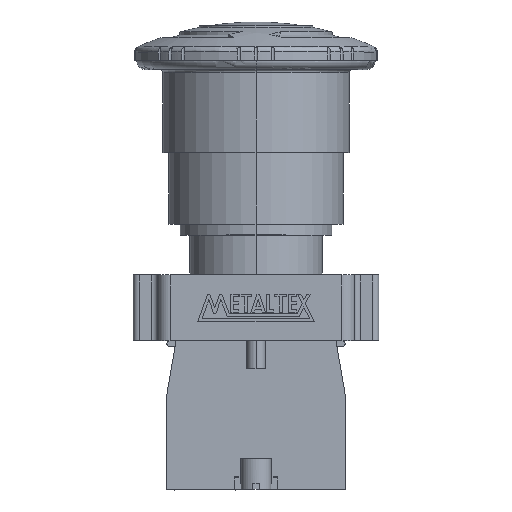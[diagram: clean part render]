
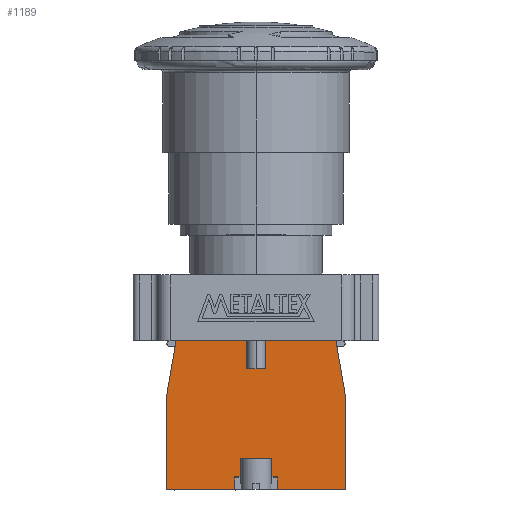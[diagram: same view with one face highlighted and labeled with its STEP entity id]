
A CAD part, top view. The second image highlights one B-rep face of the part: STEP entity #1189.
In plain terms, the highlighted planar face has unit normal (0, 0, 1).
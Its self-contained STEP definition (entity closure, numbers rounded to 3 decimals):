
#1189 = ADVANCED_FACE ( 'NONE', ( #2750 ), #10880, .T. ) ;
#1325 = EDGE_CURVE ( 'NONE', #5442, #5418, #11363, .T. ) ;
#1326 = EDGE_CURVE ( 'NONE', #7913, #4886, #11366, .T. ) ;
#1327 = EDGE_CURVE ( 'NONE', #7870, #4886, #11369, .T. ) ;
#1328 = EDGE_CURVE ( 'NONE', #7870, #5438, #11372, .T. ) ;
#1329 = EDGE_CURVE ( 'NONE', #4948, #5439, #11375, .T. ) ;
#1330 = EDGE_CURVE ( 'NONE', #4947, #4948, #11378, .T. ) ;
#1331 = EDGE_CURVE ( 'NONE', #7912, #4947, #11381, .T. ) ;
#1332 = EDGE_CURVE ( 'NONE', #5444, #5416, #11384, .T. ) ;
#1333 = EDGE_CURVE ( 'NONE', #5415, #4842, #11387, .T. ) ;
#1337 = EDGE_CURVE ( 'NONE', #7916, #5412, #11399, .T. ) ;
#1375 = EDGE_CURVE ( 'NONE', #7897, #7912, #11513, .T. ) ;
#1378 = EDGE_CURVE ( 'NONE', #7913, #7916, #11522, .T. ) ;
#1443 = EDGE_CURVE ( 'NONE', #4842, #7897, #11937, .T. ) ;
#1450 = EDGE_CURVE ( 'NONE', #5442, #5444, #11958, .T. ) ;
#1456 = EDGE_CURVE ( 'NONE', #5438, #5439, #11976, .T. ) ;
#1490 = EDGE_CURVE ( 'NONE', #5411, #5418, #12078, .T. ) ;
#1494 = EDGE_CURVE ( 'NONE', #5416, #5415, #12090, .T. ) ;
#1501 = EDGE_CURVE ( 'NONE', #5412, #5411, #12111, .T. ) ;
#2058 = VECTOR ( 'NONE', #11368, 1000. ) ;
#2059 = VECTOR ( 'NONE', #11365, 1000. ) ;
#2062 = VECTOR ( 'NONE', #11374, 1000. ) ;
#2063 = VECTOR ( 'NONE', #11371, 1000. ) ;
#2064 = VECTOR ( 'NONE', #11377, 1000. ) ;
#2065 = VECTOR ( 'NONE', #11380, 1000. ) ;
#2066 = VECTOR ( 'NONE', #11386, 1000. ) ;
#2067 = VECTOR ( 'NONE', #11383, 1000. ) ;
#2068 = VECTOR ( 'NONE', #11389, 1000. ) ;
#2070 = VECTOR ( 'NONE', #11401, 1000. ) ;
#2111 = VECTOR ( 'NONE', #11515, 1000. ) ;
#2114 = VECTOR ( 'NONE', #11524, 1000. ) ;
#2166 = VECTOR ( 'NONE', #11939, 1000. ) ;
#2173 = VECTOR ( 'NONE', #11960, 1000. ) ;
#2179 = VECTOR ( 'NONE', #11978, 1000. ) ;
#2220 = VECTOR ( 'NONE', #12080, 1000. ) ;
#2750 = FACE_OUTER_BOUND ( 'NONE', #8194, .T. ) ;
#2755 = AXIS2_PLACEMENT_3D ( 'NONE', #10881, #10882, #10883 ) ;
#2787 = VECTOR ( 'NONE', #12092, 1000. ) ;
#3163 = VECTOR ( 'NONE', #12113, 1000. ) ;
#3479 = ORIENTED_EDGE ( 'NONE', *, *, #1333, .T. ) ;
#3480 = ORIENTED_EDGE ( 'NONE', *, *, #1332, .T. ) ;
#3481 = ORIENTED_EDGE ( 'NONE', *, *, #1443, .T. ) ;
#3482 = ORIENTED_EDGE ( 'NONE', *, *, #1494, .T. ) ;
#3483 = ORIENTED_EDGE ( 'NONE', *, *, #1375, .T. ) ;
#3484 = ORIENTED_EDGE ( 'NONE', *, *, #1331, .T. ) ;
#3485 = ORIENTED_EDGE ( 'NONE', *, *, #1329, .T. ) ;
#3486 = ORIENTED_EDGE ( 'NONE', *, *, #1330, .T. ) ;
#3487 = ORIENTED_EDGE ( 'NONE', *, *, #1456, .F. ) ;
#3488 = ORIENTED_EDGE ( 'NONE', *, *, #1328, .F. ) ;
#3489 = ORIENTED_EDGE ( 'NONE', *, *, #1326, .F. ) ;
#3490 = ORIENTED_EDGE ( 'NONE', *, *, #1327, .T. ) ;
#3491 = ORIENTED_EDGE ( 'NONE', *, *, #1378, .T. ) ;
#3492 = ORIENTED_EDGE ( 'NONE', *, *, #1501, .T. ) ;
#3493 = ORIENTED_EDGE ( 'NONE', *, *, #1337, .T. ) ;
#3494 = ORIENTED_EDGE ( 'NONE', *, *, #1490, .T. ) ;
#3495 = ORIENTED_EDGE ( 'NONE', *, *, #1325, .F. ) ;
#3497 = ORIENTED_EDGE ( 'NONE', *, *, #1450, .T. ) ;
#4842 = VERTEX_POINT ( 'NONE', #14947 ) ;
#4886 = VERTEX_POINT ( 'NONE', #14991 ) ;
#4947 = VERTEX_POINT ( 'NONE', #15052 ) ;
#4948 = VERTEX_POINT ( 'NONE', #15053 ) ;
#5411 = VERTEX_POINT ( 'NONE', #15429 ) ;
#5412 = VERTEX_POINT ( 'NONE', #15430 ) ;
#5415 = VERTEX_POINT ( 'NONE', #15433 ) ;
#5416 = VERTEX_POINT ( 'NONE', #15434 ) ;
#5418 = VERTEX_POINT ( 'NONE', #15436 ) ;
#5438 = VERTEX_POINT ( 'NONE', #15456 ) ;
#5439 = VERTEX_POINT ( 'NONE', #15457 ) ;
#5442 = VERTEX_POINT ( 'NONE', #15460 ) ;
#5444 = VERTEX_POINT ( 'NONE', #15462 ) ;
#7870 = VERTEX_POINT ( 'NONE', #15539 ) ;
#7897 = VERTEX_POINT ( 'NONE', #15566 ) ;
#7912 = VERTEX_POINT ( 'NONE', #15581 ) ;
#7913 = VERTEX_POINT ( 'NONE', #15582 ) ;
#7916 = VERTEX_POINT ( 'NONE', #15585 ) ;
#8194 = EDGE_LOOP ( 'NONE', ( #3480, #3482, #3479, #3481, #3483, #3484, #3486, #3485, #3487, #3488, #3490, #3489, #3491, #3493, #3492, #3494, #3495, #3497 ) ) ;
#10880 = PLANE ( 'NONE',  #2755 ) ;
#10881 = CARTESIAN_POINT ( 'NONE',  ( 0., 0., 7.45 ) ) ;
#10882 = DIRECTION ( 'NONE',  ( 0., 0., 1. ) ) ;
#10883 = DIRECTION ( 'NONE',  ( 1., 0., 0. ) ) ;
#11363 = LINE ( 'NONE', #11364, #2059 ) ;
#11364 = CARTESIAN_POINT ( 'NONE',  ( 1.5, 19.6, 7.45 ) ) ;
#11365 = DIRECTION ( 'NONE',  ( 0., 1., 0. ) ) ;
#11366 = LINE ( 'NONE', #11367, #2058 ) ;
#11367 = CARTESIAN_POINT ( 'NONE',  ( 3.5, 0., 7.45 ) ) ;
#11368 = DIRECTION ( 'NONE',  ( 0., 1., 0. ) ) ;
#11369 = LINE ( 'NONE', #11370, #2063 ) ;
#11370 = CARTESIAN_POINT ( 'NONE',  ( 0., 2., 7.45 ) ) ;
#11371 = DIRECTION ( 'NONE',  ( 1., 0., 0. ) ) ;
#11372 = LINE ( 'NONE', #11373, #2062 ) ;
#11373 = CARTESIAN_POINT ( 'NONE',  ( 2.6, 0., 7.45 ) ) ;
#11374 = DIRECTION ( 'NONE',  ( 0., 1., 0. ) ) ;
#11375 = LINE ( 'NONE', #11376, #2064 ) ;
#11376 = CARTESIAN_POINT ( 'NONE',  ( -2.6, 0., 7.45 ) ) ;
#11377 = DIRECTION ( 'NONE',  ( 0., 1., 0. ) ) ;
#11378 = LINE ( 'NONE', #11379, #2065 ) ;
#11379 = CARTESIAN_POINT ( 'NONE',  ( 0., 2., 7.45 ) ) ;
#11380 = DIRECTION ( 'NONE',  ( 1., 0., 0. ) ) ;
#11381 = LINE ( 'NONE', #11382, #2067 ) ;
#11382 = CARTESIAN_POINT ( 'NONE',  ( -3.5, 0., 7.45 ) ) ;
#11383 = DIRECTION ( 'NONE',  ( 0., 1., 0. ) ) ;
#11384 = LINE ( 'NONE', #11385, #2066 ) ;
#11385 = CARTESIAN_POINT ( 'NONE',  ( -1.5, 19.6, 7.45 ) ) ;
#11386 = DIRECTION ( 'NONE',  ( 0., 1., 0. ) ) ;
#11387 = LINE ( 'NONE', #11388, #2068 ) ;
#11388 = CARTESIAN_POINT ( 'NONE',  ( -13., 24.2, 7.45 ) ) ;
#11389 = DIRECTION ( 'NONE',  ( -0.17, -0.985, 0. ) ) ;
#11399 = LINE ( 'NONE', #11400, #2070 ) ;
#11400 = CARTESIAN_POINT ( 'NONE',  ( 14.5, 0., 7.45 ) ) ;
#11401 = DIRECTION ( 'NONE',  ( 0., 1., 0. ) ) ;
#11513 = LINE ( 'NONE', #11514, #2111 ) ;
#11514 = CARTESIAN_POINT ( 'NONE',  ( -14.5, 0., 7.45 ) ) ;
#11515 = DIRECTION ( 'NONE',  ( 1., 0., 0. ) ) ;
#11522 = LINE ( 'NONE', #11523, #2114 ) ;
#11523 = CARTESIAN_POINT ( 'NONE',  ( -14.5, 0., 7.45 ) ) ;
#11524 = DIRECTION ( 'NONE',  ( 1., 0., 0. ) ) ;
#11937 = LINE ( 'NONE', #11938, #2166 ) ;
#11938 = CARTESIAN_POINT ( 'NONE',  ( -14.5, 15.5, 7.45 ) ) ;
#11939 = DIRECTION ( 'NONE',  ( 0., -1., 0. ) ) ;
#11958 = LINE ( 'NONE', #11959, #2173 ) ;
#11959 = CARTESIAN_POINT ( 'NONE',  ( 0., 19.6, 7.45 ) ) ;
#11960 = DIRECTION ( 'NONE',  ( -1., 0., 0. ) ) ;
#11976 = LINE ( 'NONE', #11977, #2179 ) ;
#11977 = CARTESIAN_POINT ( 'NONE',  ( 0., 5., 7.45 ) ) ;
#11978 = DIRECTION ( 'NONE',  ( -1., 0., 0. ) ) ;
#12078 = LINE ( 'NONE', #12079, #2220 ) ;
#12079 = CARTESIAN_POINT ( 'NONE',  ( 13., 24.2, 7.45 ) ) ;
#12080 = DIRECTION ( 'NONE',  ( -1., 0., 0. ) ) ;
#12090 = LINE ( 'NONE', #12091, #2787 ) ;
#12091 = CARTESIAN_POINT ( 'NONE',  ( 13., 24.2, 7.45 ) ) ;
#12092 = DIRECTION ( 'NONE',  ( -1., 0., 0. ) ) ;
#12111 = LINE ( 'NONE', #12112, #3163 ) ;
#12112 = CARTESIAN_POINT ( 'NONE',  ( 14.5, 15.5, 7.45 ) ) ;
#12113 = DIRECTION ( 'NONE',  ( -0.17, 0.985, 0. ) ) ;
#14947 = CARTESIAN_POINT ( 'NONE',  ( -14.5, 15.5, 7.45 ) ) ;
#14991 = CARTESIAN_POINT ( 'NONE',  ( 3.5, 2., 7.45 ) ) ;
#15052 = CARTESIAN_POINT ( 'NONE',  ( -3.5, 2., 7.45 ) ) ;
#15053 = CARTESIAN_POINT ( 'NONE',  ( -2.6, 2., 7.45 ) ) ;
#15429 = CARTESIAN_POINT ( 'NONE',  ( 13., 24.2, 7.45 ) ) ;
#15430 = CARTESIAN_POINT ( 'NONE',  ( 14.5, 15.5, 7.45 ) ) ;
#15433 = CARTESIAN_POINT ( 'NONE',  ( -13., 24.2, 7.45 ) ) ;
#15434 = CARTESIAN_POINT ( 'NONE',  ( -1.5, 24.2, 7.45 ) ) ;
#15436 = CARTESIAN_POINT ( 'NONE',  ( 1.5, 24.2, 7.45 ) ) ;
#15456 = CARTESIAN_POINT ( 'NONE',  ( 2.6, 5., 7.45 ) ) ;
#15457 = CARTESIAN_POINT ( 'NONE',  ( -2.6, 5., 7.45 ) ) ;
#15460 = CARTESIAN_POINT ( 'NONE',  ( 1.5, 19.6, 7.45 ) ) ;
#15462 = CARTESIAN_POINT ( 'NONE',  ( -1.5, 19.6, 7.45 ) ) ;
#15539 = CARTESIAN_POINT ( 'NONE',  ( 2.6, 2., 7.45 ) ) ;
#15566 = CARTESIAN_POINT ( 'NONE',  ( -14.5, 0., 7.45 ) ) ;
#15581 = CARTESIAN_POINT ( 'NONE',  ( -3.5, 0., 7.45 ) ) ;
#15582 = CARTESIAN_POINT ( 'NONE',  ( 3.5, 0., 7.45 ) ) ;
#15585 = CARTESIAN_POINT ( 'NONE',  ( 14.5, 0., 7.45 ) ) ;
